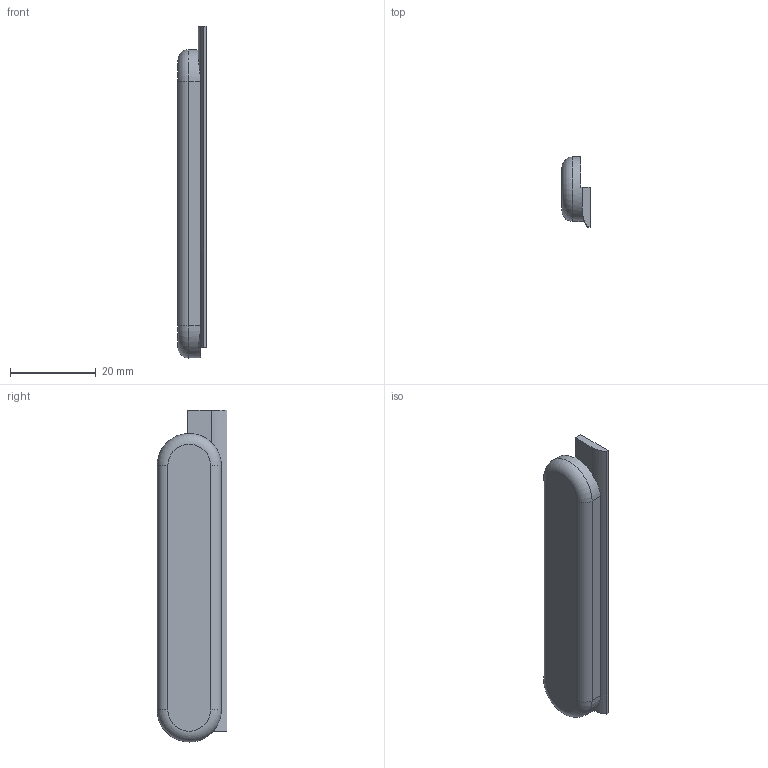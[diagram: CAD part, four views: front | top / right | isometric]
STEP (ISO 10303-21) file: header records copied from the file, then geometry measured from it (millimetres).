
FILE_DESCRIPTION(('Open CASCADE Model'),'2;1');
FILE_NAME('ptt_cap_orange_72mm','2026-09-04T19:58:00',('Author'),( 'Open CASCADE'),'Open CASCADE STEP processor 7.8','build123d', 'Unknown');
FILE_SCHEMA(('AUTOMOTIVE_DESIGN { 1 0 10303 214 1 1 1 1 }'));
Length unit declared in the file: millimetre
Products named in the file (1): ptt_cap_orange_72mm
Bounding box: 6.6 x 16.3 x 77.5 mm (x, y, z)
Volume: 5712.7 mm3; surface area: 3227.2 mm2
Topology: 1 solids, 1 shells, 18 faces, 44 edges, 28 vertices
Faces by surface type: plane 11, cylinder 5, torus 2
Entity records: 1197 total; most frequent: CARTESIAN_POINT 310, DIRECTION 160, LINE 93, VECTOR 93, ORIENTED_EDGE 88, PCURVE 88, DEFINITIONAL_REPRESENTATION 88, EDGE_CURVE 44
